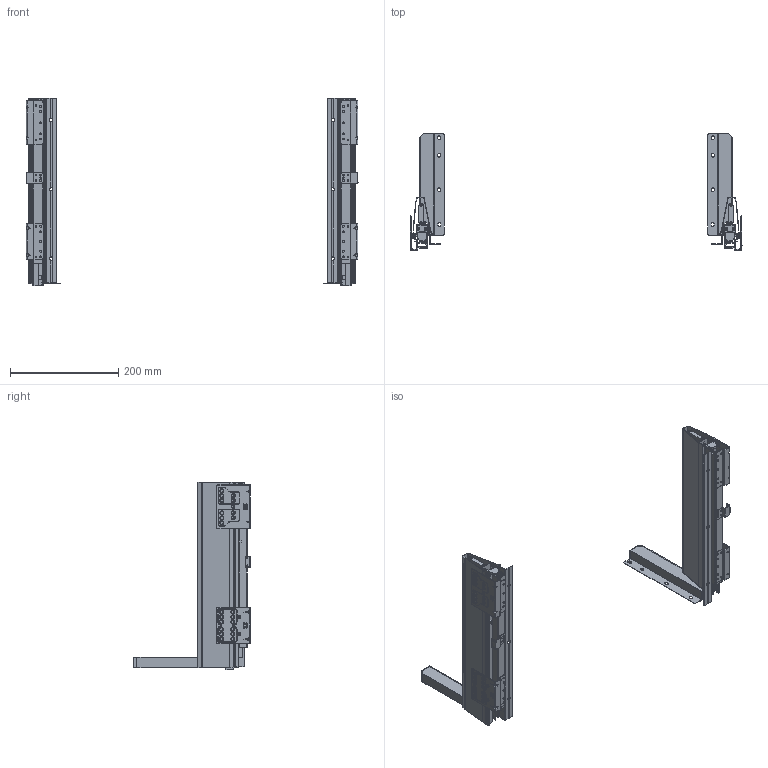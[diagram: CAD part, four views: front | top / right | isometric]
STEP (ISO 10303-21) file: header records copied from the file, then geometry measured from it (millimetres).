
FILE_DESCRIPTION(/* description */ (''),/* implementation_level */ '2;1');
FILE_NAME(/* name */ 'C:/Users/smeja/Desktop/PRACOVNÍ/StrongBox_3D/Výška 204 - 350 mm Š + B - 276477 a 276478 a 179268 a 146770.step',/* time_stamp */ '2019-05-30T07:38:15+02:00',/* author */ (''),/* organization */ (''),/* preprocessor_version */ 'ST-DEVELOPER v18',/* originating_system */ 'Autodesk Translation Framework v8.2.0.1029',/* authorisation */ '');
FILE_SCHEMA (('AUTOMOTIVE_DESIGN { 1 0 10303 214 3 1 1 }'));
Products named in the file (1): (Unsaved)
Bounding box: 613.19 x 217.22 x 347 mm (x, y, z)
Volume: 348672.1 mm3; surface area: 723395.5 mm2
Topology: 24 solids, 24 shells, 2928 faces, 7901 edges, 5132 vertices
Faces by surface type: plane 1638, cylinder 946, cone 176, bspline 72, torus 68, sphere 28
Entity records: 95200 total; most frequent: CARTESIAN_POINT 20070, ORIENTED_EDGE 15752, DIRECTION 15576, EDGE_CURVE 7876, LINE 5386, VECTOR 5386, VERTEX_POINT 5132, AXIS2_PLACEMENT_3D 5095
